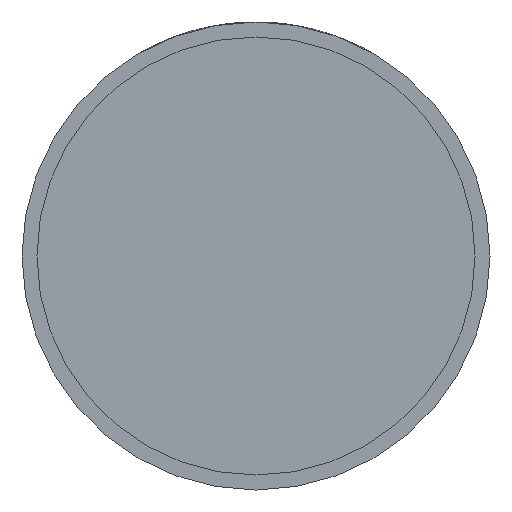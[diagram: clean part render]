
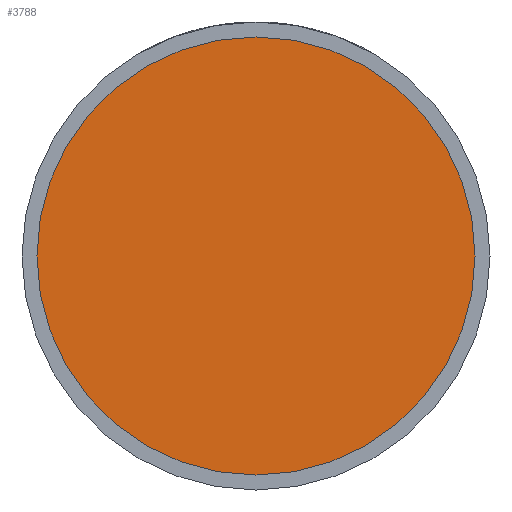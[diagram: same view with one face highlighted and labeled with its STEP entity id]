
A CAD part, front view. The second image highlights one B-rep face of the part: STEP entity #3788.
In plain terms, the highlighted planar face has unit normal (0, -1, 0).
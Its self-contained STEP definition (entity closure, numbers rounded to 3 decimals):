
#297 = CARTESIAN_POINT ( 'NONE',  ( -33.7, -20., 0. ) ) ;
#419 = CARTESIAN_POINT ( 'NONE',  ( 0., -20., 0. ) ) ;
#423 = DIRECTION ( 'NONE',  ( 1., 0., 0. ) ) ;
#485 = CARTESIAN_POINT ( 'NONE',  ( 0., -20., 0. ) ) ;
#521 = VERTEX_POINT ( 'NONE', #297 ) ;
#572 = EDGE_CURVE ( 'NONE', #1582, #521, #3716, .T. ) ;
#641 = DIRECTION ( 'NONE',  ( 0., -1., 0. ) ) ;
#764 = DIRECTION ( 'NONE',  ( 1., 0., 0. ) ) ;
#913 = CARTESIAN_POINT ( 'NONE',  ( 33.7, -20., 0. ) ) ;
#993 = PLANE ( 'NONE',  #1027 ) ;
#1027 = AXIS2_PLACEMENT_3D ( 'NONE', #3609, #641, #1966 ) ;
#1118 = DIRECTION ( 'NONE',  ( 0., -1., 0. ) ) ;
#1293 = CIRCLE ( 'NONE', #2410, 33.7 ) ;
#1582 = VERTEX_POINT ( 'NONE', #913 ) ;
#1966 = DIRECTION ( 'NONE',  ( 1., 0., 0. ) ) ;
#2064 = ORIENTED_EDGE ( 'NONE', *, *, #572, .T. ) ;
#2410 = AXIS2_PLACEMENT_3D ( 'NONE', #485, #1118, #423 ) ;
#2626 = FACE_OUTER_BOUND ( 'NONE', #3370, .T. ) ;
#3356 = EDGE_CURVE ( 'NONE', #521, #1582, #1293, .T. ) ;
#3370 = EDGE_LOOP ( 'NONE', ( #2064, #3852 ) ) ;
#3559 = AXIS2_PLACEMENT_3D ( 'NONE', #419, #3753, #764 ) ;
#3609 = CARTESIAN_POINT ( 'NONE',  ( 33.7, -20., 0. ) ) ;
#3716 = CIRCLE ( 'NONE', #3559, 33.7 ) ;
#3753 = DIRECTION ( 'NONE',  ( 0., -1., 0. ) ) ;
#3788 = ADVANCED_FACE ( 'NONE', ( #2626 ), #993, .T. ) ;
#3852 = ORIENTED_EDGE ( 'NONE', *, *, #3356, .T. ) ;
